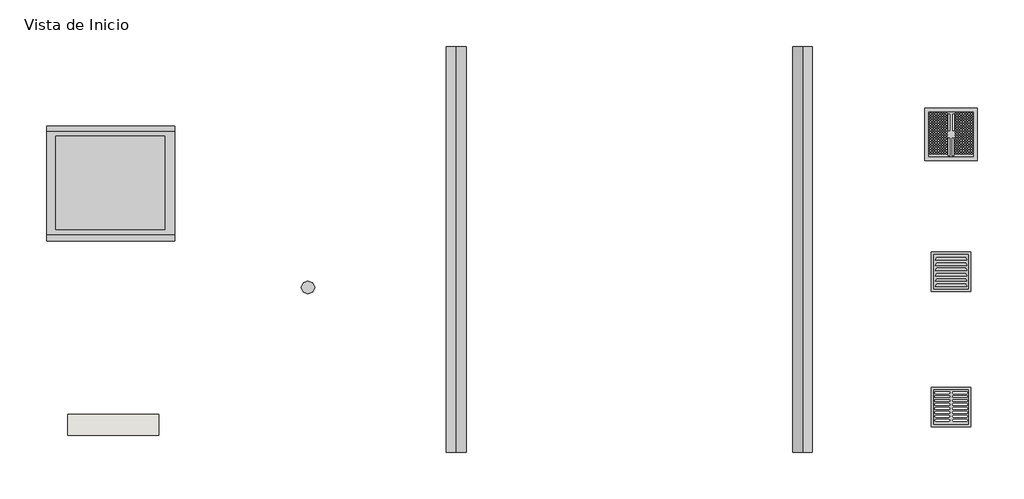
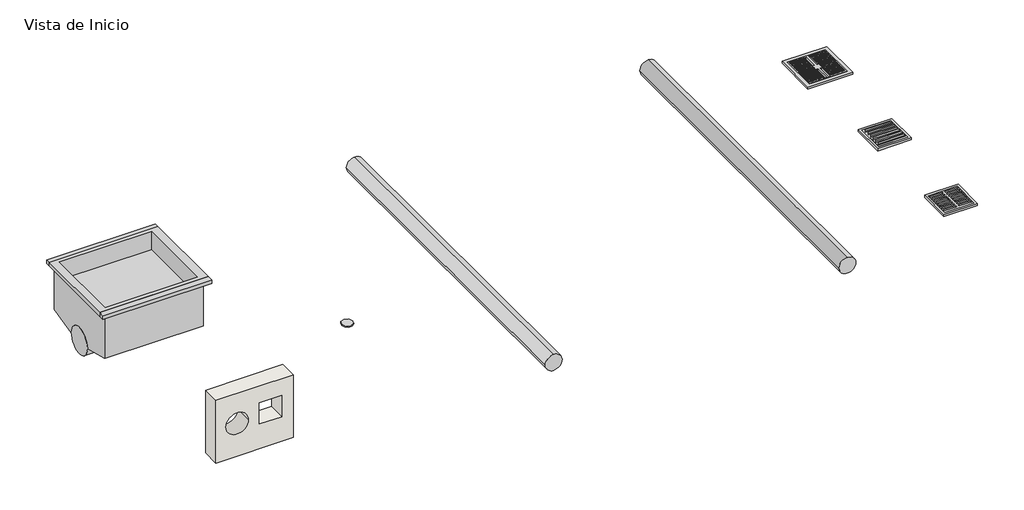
# One storey, incomplete: 5 pipe fittings, 2 pipe segments, 1 wall.
"""IFC4 building model written with IfcOpenShell, lengths in millimetres."""

from ifc_helpers import new_model, si_unit, point, frame, frame_2d, origin, place, context, project, spatial, polyline, circle_curve, trimmed, segment, composite_curve, outline, extrude, transform, mapped, element, save
from components import var_fe89f2a5, var_82650048, var_29f5bc66, var_73ac3ff6, var_fe454d0c, var_2a6e803b

model = new_model("IFC4")

# Units and contexts
model_context = context("Model", 3, world=origin())
ifc_project = project(units=[si_unit("LENGTHUNIT", "METRE", prefix="MILLI")], contexts=[model_context])

# Site, building, storey
site = spatial("IfcSite", under=ifc_project)
building = spatial("IfcBuilding", under=site)
storey = spatial("IfcBuildingStorey", under=building, Name="Vista de Inicio", Elevation=0.0)

# Pipe fittings
placement = place(None, origin())
var_shape = var_fe89f2a5(model_context)
element("IfcPipeFitting", 1, ObjectType="PlastigamaWavin_Unionesdetubería_SanitariaRejillaVentLineal15cm-20cm : Var.", at=placement, inside=storey, context=model_context, shape_type="MappedRepresentation", body=[
    mapped(var_shape, transform((5030.4680792, 398.6706408, 0.0), x_axis=(1.0, 0.0, 0.0), y_axis=(0.0, 1.0, 0.0), z_axis=(0.0, 0.0, 1.0))),
])
var_2_shape = var_82650048(model_context)
element("IfcPipeFitting", 2, ObjectType="PlastigamaWavin_Unionesdetubería_SanitariaRejillaVentPersiana15cm-20cm : Var.", at=placement, inside=storey, context=model_context, shape_type="MappedRepresentation", body=[
    mapped(var_2_shape, transform((5030.4680792, 911.6343327, 0.0), x_axis=(1.0, 0.0, 0.0), y_axis=(0.0, 1.0, 0.0), z_axis=(0.0, 0.0, 1.0))),
])
var_3_shape = var_29f5bc66(model_context)
var_4_shape = var_73ac3ff6(model_context)
element("IfcPipeFitting", 3, ObjectType="PlastigamaWavin_Unionesdetubería_SanitariaRejillaVentGas20cm : Var.", at=placement, inside=storey, context=model_context, shape_type="MappedRepresentation", body=[
    mapped(var_3_shape, transform((5030.4680792, 1408.1562499, 0.0), x_axis=(1.0, 0.0, 0.0), y_axis=(0.0, 1.0, 0.0), z_axis=(0.0, 0.0, 1.0))),
    mapped(var_4_shape, transform((5030.4680792, 1408.1562499, 0.0), x_axis=(1.0, 0.0, 0.0), y_axis=(0.0, 1.0, 0.0), z_axis=(0.0, 0.0, 1.0))),
])
var_5_shape = var_fe454d0c(model_context)
element("IfcPipeFitting", 4, ObjectType="PlastigamaWavin_Unionesdetubería_SanitariaCaucho : Var.", at=placement, inside=storey, context=model_context, shape_type="MappedRepresentation", body=[
    mapped(var_5_shape, transform((2593.3887775, 927.1010236, 0.0), x_axis=(1.0, 0.0, 0.0), y_axis=(0.0, 1.0, 0.0), z_axis=(0.0, 0.0, 1.0))),
])
var_6_shape = var_2a6e803b(model_context)
element("IfcPipeFitting", 5, ObjectType="PlastigamaWavin_Unionesdetubería_SanitariaCajaDomiciliaria : Var.", at=placement, inside=storey, context=model_context, shape_type="MappedRepresentation", body=[
    mapped(var_6_shape, transform((1845.7162754, 1518.9353349, 0.0038892), x_axis=(1.0, 0.0, 0.0), y_axis=(0.0, 1.0, 0.0), z_axis=(0.0, 0.0, 1.0))),
])

# Pipe segments
element("IfcPipeSegment", 6, ObjectType="PLASTIGAMA Sanitaria PVC Ventilación", at=placement, inside=storey, context=model_context, shape_type="SweptSolid", body=[
    extrude(outline(composite_curve([segment(trimmed(circle_curve(frame_2d((0.0, 4467.5062344)), 37.5), [point((0.0, 4430.0062344))], [point((-37.5, 4467.5062344))], False, "CARTESIAN"), True, "CONTINUOUS"), segment(trimmed(circle_curve(frame_2d((0.0, 4467.5062344)), 37.5), [point((-37.5, 4467.5062344))], [point((0.0, 4505.0062344))], False, "CARTESIAN"), True, "CONTINUOUS"), segment(trimmed(circle_curve(frame_2d((0.0, 4467.5062344)), 37.5), [point((0.0, 4505.0062344))], [point((37.5, 4467.5062344))], False, "CARTESIAN"), True, "CONTINUOUS"), segment(trimmed(circle_curve(frame_2d((0.0, 4467.5062344)), 37.5), [point((37.5, 4467.5062344))], [point((0.0, 4430.0062344))], False, "CARTESIAN"), True, "CONTINUOUS")], self_intersect=False)), frame((0.0, 301.3843932, 0.0), z_axis=(0.0, 1.0, 0.0), x_axis=(0.0, 0.0, 1.0)), (0.0, 0.0, 1.0), 1540.0),
])
element("IfcPipeSegment", 7, ObjectType="PLASTIGAMA Sanitaria PVC Desagüe", at=placement, inside=storey, context=model_context, shape_type="SweptSolid", body=[
    extrude(outline(composite_curve([segment(trimmed(circle_curve(frame_2d((0.0, 3155.2612968)), 37.5), [point((0.0, 3192.7612968))], [point((37.5, 3155.2612968))], False, "CARTESIAN"), True, "CONTINUOUS"), segment(trimmed(circle_curve(frame_2d((0.0, 3155.2612968)), 37.5), [point((37.5, 3155.2612968))], [point((0.0, 3117.7612968))], False, "CARTESIAN"), True, "CONTINUOUS"), segment(trimmed(circle_curve(frame_2d((0.0, 3155.2612968)), 37.5), [point((0.0, 3117.7612968))], [point((-37.5, 3155.2612968))], False, "CARTESIAN"), True, "CONTINUOUS"), segment(trimmed(circle_curve(frame_2d((0.0, 3155.2612968)), 37.5), [point((-37.5, 3155.2612968))], [point((0.0, 3192.7612968))], False, "CARTESIAN"), True, "CONTINUOUS")], self_intersect=False)), frame((0.0, 301.3843932, 0.0), z_axis=(0.0, 1.0, 0.0), x_axis=(0.0, 0.0, 1.0)), (0.0, 0.0, 1.0), 1540.0),
])

# Wall
element("IfcWall", 8, ObjectType="Wall 1", at=placement, inside=storey, context=model_context, shape_type="SweptSolid", body=[
    extrude(outline(polyline([(0.0, 1682.1943105), (0.0, 2027.1943105), (296.5968372, 2027.1943105), (296.5968372, 1682.1943105), (0.0, 1682.1943105)]), holes=[composite_curve([segment(trimmed(circle_curve(frame_2d((154.4282969, 1777.1943105)), 50.0), [point((154.4282969, 1827.1943105))], [point((154.4282969, 1727.1943105))], True, "CARTESIAN"), True, "CONTINUOUS"), segment(trimmed(circle_curve(frame_2d((154.4282969, 1777.1943105)), 50.0), [point((154.4282969, 1727.1943105))], [point((154.4282969, 1827.1943105))], True, "CARTESIAN"), True, "CONTINUOUS")], self_intersect=False), polyline([(116.4896004, 1977.1943105), (116.4896004, 1877.1943105), (216.4896004, 1877.1943105), (216.4896004, 1977.1943105), (116.4896004, 1977.1943105)])]), frame((0.0, 365.7323065, 0.0), z_axis=(0.0, 1.0, 0.0), x_axis=(0.0, 0.0, 1.0)), (0.0, 0.0, 1.0), 80.0),
])

save(model, "model.ifc")
